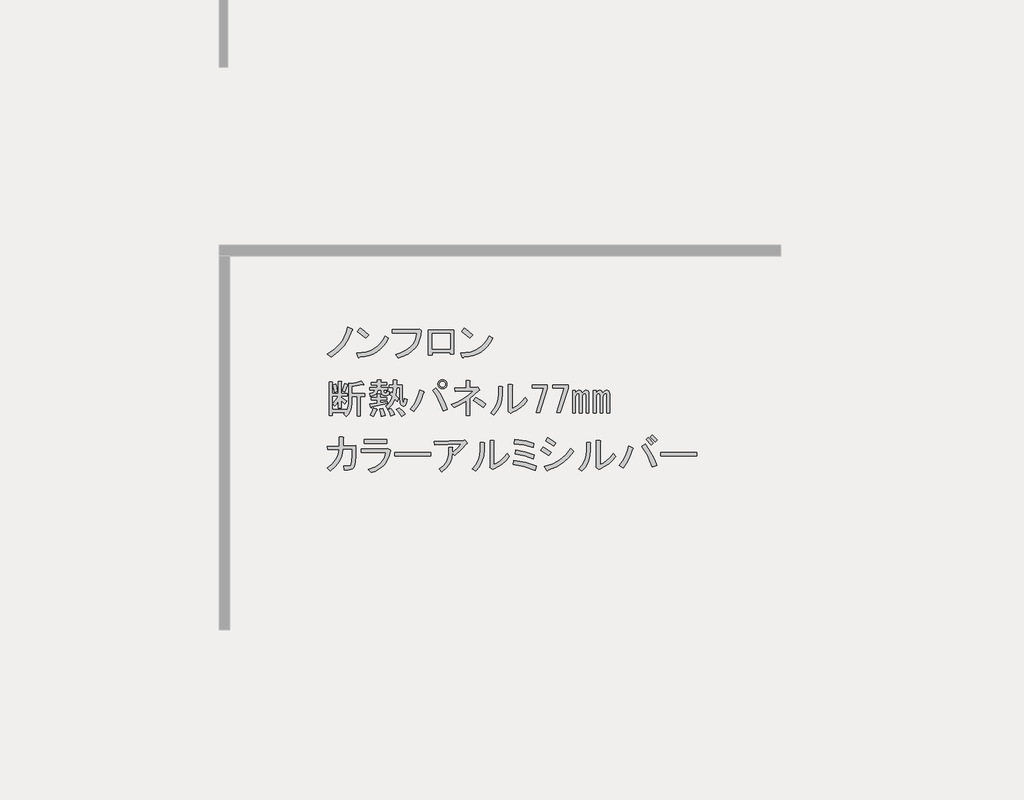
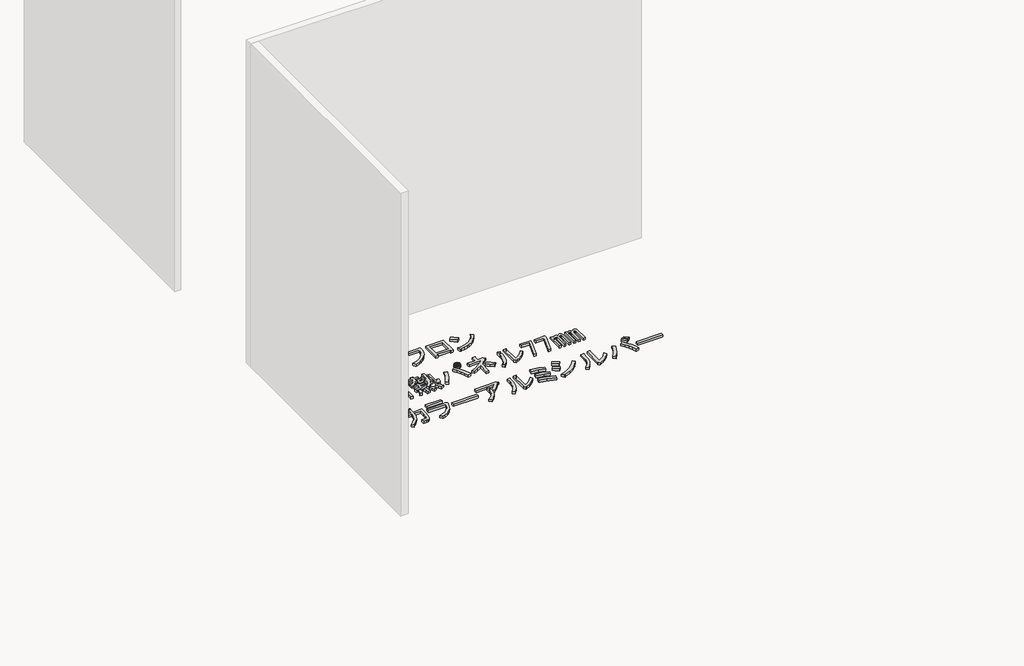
# One storey, part 41 of 117: 1 proxy.
"""IFC4 building model written with IfcOpenShell, lengths in millimetres."""

from ifc_helpers import new_model, si_unit, frame, origin, place, context, project, spatial, polyline, outline, extrude, element, save

model = new_model("IFC4")

# Units and contexts
model_context = context("Model", 3, world=origin())
ifc_project = project(units=[si_unit("LENGTHUNIT", "METRE", prefix="MILLI")], contexts=[model_context])

# Site, building, storey
site = spatial("IfcSite", under=ifc_project)
building = spatial("IfcBuilding", under=site)
storey = spatial("IfcBuildingStorey", under=building, Name="レベル 1", Elevation=500.0)

# Proxy
placement = place(None, origin())
element("IfcBuildingElementProxy", 1, Name="200㎜\u3000MS Pゴシック", ObjectType="200㎜\u3000MS Pゴシック", at=placement, inside=storey, context=model_context, shape_type="SweptSolid", body=[
    extrude(outline(polyline([(943.6706985, -607.0496882), (918.0952502, -666.8215225), (889.646156, -712.7998566), (847.9782907, -758.2034615), (798.8389462, -795.560858), (771.2519457, -773.7211493), (818.9544673, -743.2605029), (858.6107805, -704.7536481), (875.9963381, -680.8305462), (891.3703435, -652.7406577), (904.7327969, -620.4839827), (916.0836981, -584.0605212), (947.1190736, -597.8540214), (950.2800841, -602.4518548), (943.6706985, -607.0496882)])), frame((0.0, 0.0, 500.0), z_axis=(0.0, 0.0, 1.0), x_axis=(1.0, 0.0, 0.0)), (0.0, 0.0, 1.0), 25.0),
    extrude(outline(polyline([(1043.3977052, -662.2236891), (984.7753292, -615.0958967), (1004.3161212, -590.9572713), (1031.6157571, -610.7854279), (1065.2374138, -640.3839804), (1043.3977052, -662.2236891)])), frame((0.0, 0.0, 500.0), z_axis=(0.0, 0.0, 1.0), x_axis=(1.0, 0.0, 0.0)), (0.0, 0.0, 1.0), 25.0),
    extrude(outline(polyline([(1205.4713328, -662.2236891), (1188.947869, -691.965924), (1169.8381239, -717.9724192), (1148.1420975, -740.2431748), (1123.8597898, -758.7781907), (1096.9912008, -773.577467), (1067.5363306, -784.6410036), (1035.495179, -791.9688006), (1000.8677461, -795.560858), (995.1204544, -803.6070664), (989.3731626, -797.8597747), (980.1774958, -767.9738575), (1016.0082679, -765.2977748), (1048.7857912, -758.9937141), (1078.5100658, -749.0616756), (1105.1810916, -735.5016591), (1128.7988687, -718.3136646), (1149.363397, -697.4976923), (1166.8746766, -673.053742), (1181.3327074, -644.9818138), (1205.4713328, -662.2236891)])), frame((0.0, 0.0, 500.0), z_axis=(0.0, 0.0, 1.0), x_axis=(1.0, 0.0, 0.0)), (0.0, 0.0, 1.0), 25.0),
    extrude(outline(polyline([(1256.2314136, -777.1695243), (1290.014713, -767.4889298), (1319.5234641, -755.1142922), (1344.757667, -740.0456116), (1365.7173217, -722.282888), (1382.402428, -701.8261214), (1394.8129862, -678.6753118), (1402.9489961, -652.8304591), (1406.8104577, -624.2915635), (1234.3917049, -624.2915635), (1234.3917049, -599.0034798), (1409.1093744, -599.0034798), (1425.2017914, -595.5551047), (1437.8458332, -607.0496882), (1434.325617, -643.5449909), (1426.0638851, -676.5919185), (1413.0606375, -706.1904711), (1395.3158742, -732.3406486), (1372.8295952, -755.042451), (1345.6018005, -774.2958784), (1313.6324901, -790.1009308), (1276.921664, -802.4576081), (1256.2314136, -777.1695243)])), frame((0.0, 0.0, 500.0), z_axis=(0.0, 0.0, 1.0), x_axis=(1.0, 0.0, 0.0)), (0.0, 0.0, 1.0), 25.0),
    extrude(outline(polyline([(1670.955987, -776.020066), (1644.5184449, -776.020066), (1644.5184449, -763.3760241), (1516.9285679, -763.3760241), (1516.9285679, -781.7673577), (1490.4910258, -781.7673577), (1490.4910258, -602.4518548), (1670.955987, -602.4518548), (1670.955987, -776.020066)]), holes=[polyline([(1516.9285679, -627.7399386), (1516.9285679, -738.0879404), (1644.5184449, -738.0879404), (1644.5184449, -627.7399386), (1516.9285679, -627.7399386)])]), frame((0.0, 0.0, 500.0), z_axis=(0.0, 0.0, 1.0), x_axis=(1.0, 0.0, 0.0)), (0.0, 0.0, 1.0), 25.0),
    extrude(outline(polyline([(1947.0099049, -662.2236891), (1930.4864411, -691.965924), (1911.376696, -717.9724192), (1889.6806696, -740.2431748), (1865.3983619, -758.7781907), (1838.5297729, -773.577467), (1809.0749026, -784.6410036), (1777.0337511, -791.9688006), (1742.4063182, -795.560858), (1736.6590264, -803.6070664), (1730.9117347, -797.8597747), (1721.7160679, -767.9738575), (1757.5468399, -765.2977748), (1790.3243633, -758.9937141), (1820.0486378, -749.0616756), (1846.7196637, -735.5016591), (1870.3374407, -718.3136646), (1890.9019691, -697.4976923), (1908.4132486, -673.053742), (1922.8712795, -644.9818138), (1947.0099049, -662.2236891)])), frame((0.0, 0.0, 500.0), z_axis=(0.0, 0.0, 1.0), x_axis=(1.0, 0.0, 0.0)), (0.0, 0.0, 1.0), 25.0),
    extrude(outline(polyline([(1784.9362772, -662.2236891), (1726.3139013, -615.0958967), (1745.8546933, -590.9572713), (1773.1543291, -610.7854279), (1806.7759859, -640.3839804), (1784.9362772, -662.2236891)])), frame((0.0, 0.0, 500.0), z_axis=(0.0, 0.0, 1.0), x_axis=(1.0, 0.0, 0.0)), (0.0, 0.0, 1.0), 25.0),
    extrude(outline(polyline([(877.0021141, -1039.2345221), (894.2439894, -986.3594379), (914.9342397, -992.1067296), (916.6584273, -995.2677401), (912.635323, -997.8540214), (895.3934477, -1046.1312722), (877.0021141, -1039.2345221)])), frame((0.0, 0.0, 500.0), z_axis=(0.0, 0.0, 1.0), x_axis=(1.0, 0.0, 0.0)), (0.0, 0.0, 1.0), 25.0),
    extrude(outline(polyline([(1031.0295333, -990.9572713), (1029.3053458, -995.5551047), (1021.8338665, -993.256188), (944.8201569, -1005.9002299), (944.8201569, -1055.326939), (1036.7768251, -1055.326939), (1036.7768251, -1077.1666477), (1005.7414495, -1077.1666477), (1005.7414495, -1217.4005666), (982.7522825, -1217.4005666), (982.7522825, -1077.1666477), (944.8201569, -1077.1666477), (944.8201569, -1126.5933568), (942.2338756, -1154.3958807), (934.4750317, -1179.1810764), (921.5436253, -1200.948944), (903.4396562, -1219.6994833), (886.1977809, -1200.1586914), (896.5429061, -1190.9630245), (806.8851546, -1190.9630245), (806.8851546, -1212.8027332), (783.8959876, -1212.8027332), (783.8959876, -973.715396), (805.7356963, -973.715396), (810.6208943, -976.0143127), (806.8851546, -980.6121461), (806.8851546, -1056.4763974), (849.4151137, -1056.4763974), (849.4151137, -969.1175626), (867.8064473, -969.1175626), (872.6916453, -971.4164793), (868.9559057, -976.0143127), (868.9559057, -1056.4763974), (912.635323, -1056.4763974), (912.635323, -1074.867731), (868.9559057, -1074.867731), (868.9559057, -1084.0633978), (909.186948, -1110.5009399), (895.3934477, -1132.3406486), (868.9559057, -1105.9031065), (868.9559057, -1158.7781907), (849.4151137, -1158.7781907), (849.4151137, -1110.5009399), (836.1963426, -1130.3290965), (821.8281132, -1146.1341488), (809.1840713, -1127.7428152), (831.02378, -1103.6041898), (848.2656553, -1074.867731), (806.8851546, -1074.867731), (806.8851546, -1169.1233159), (904.5891146, -1169.1233159), (904.5891146, -1182.9168161), (917.520521, -1158.7781907), (921.8309898, -1125.4438985), (921.8309898, -980.6121461), (943.6706985, -986.3594379), (979.8786366, -978.8879586), (1010.339283, -965.6691875), (1031.0295333, -990.9572713)])), frame((0.0, 0.0, 500.0), z_axis=(0.0, 0.0, 1.0), x_axis=(1.0, 0.0, 0.0)), (0.0, 0.0, 1.0), 25.0),
    extrude(outline(polyline([(822.9775716, -1047.2807305), (810.3335297, -996.7045631), (829.8743217, -989.8078129), (837.6331656, -1013.9464383), (842.5183636, -1040.3839804), (822.9775716, -1047.2807305)])), frame((0.0, 0.0, 500.0), z_axis=(0.0, 0.0, 1.0), x_axis=(1.0, 0.0, 0.0)), (0.0, 0.0, 1.0), 25.0),
    extrude(outline(polyline([(1121.8367431, -1167.9738575), (1125.2851182, -1172.8590555), (1119.5378264, -1176.020066), (1109.7674304, -1201.5955143), (1098.8475761, -1220.8489417), (1075.858409, -1209.3543582), (1088.5024509, -1185.790462), (1098.8475761, -1158.7781907), (1121.8367431, -1167.9738575)])), frame((0.0, 0.0, 500.0), z_axis=(0.0, 0.0, 1.0), x_axis=(1.0, 0.0, 0.0)), (0.0, 0.0, 1.0), 25.0),
    extrude(outline(polyline([(1166.6656188, -1163.3760241), (1176.7233794, -1190.67566), (1181.6085774, -1212.8027332), (1152.8721186, -1218.550025), (1150.2858373, -1196.9976809), (1142.5269934, -1166.8243992), (1166.6656188, -1163.3760241)])), frame((0.0, 0.0, 500.0), z_axis=(0.0, 0.0, 1.0), x_axis=(1.0, 0.0, 0.0)), (0.0, 0.0, 1.0), 25.0),
    extrude(outline(polyline([(1281.611454, -1157.6287323), (1306.3248086, -1178.8937119), (1325.2908714, -1203.6070664), (1298.8533293, -1218.550025), (1279.5999019, -1188.9514724), (1260.9212037, -1169.1233159), (1281.611454, -1157.6287323)])), frame((0.0, 0.0, 500.0), z_axis=(0.0, 0.0, 1.0), x_axis=(1.0, 0.0, 0.0)), (0.0, 0.0, 1.0), 25.0),
    extrude(outline(polyline([(1222.9890781, -1216.2511083), (1214.655505, -1191.5377537), (1201.1493694, -1170.2727742), (1221.8396197, -1162.2265657), (1238.7941304, -1183.7789098), (1250.5760785, -1207.0554415), (1222.9890781, -1216.2511083)])), frame((0.0, 0.0, 500.0), z_axis=(0.0, 0.0, 1.0), x_axis=(1.0, 0.0, 0.0)), (0.0, 0.0, 1.0), 25.0),
    extrude(outline(polyline([(1083.9046175, -1153.0308989), (1081.8930654, -1157.9160969), (1078.1573257, -1156.479274), (1072.410034, -1132.3406486), (1127.5840349, -1124.2944401), (1127.5840349, -1101.3052731), (1083.9046175, -1101.3052731), (1083.9046175, -1082.9139395), (1127.5840349, -1082.9139395), (1127.5840349, -1059.9247724), (1145.9753685, -1059.9247724), (1150.8605665, -1062.2236891), (1147.1248268, -1066.8215225), (1147.1248268, -1082.9139395), (1191.9537026, -1082.9139395), (1191.9537026, -1101.3052731), (1147.1248268, -1101.3052731), (1147.1248268, -1120.8460651), (1197.7009943, -1111.6503983), (1197.7009943, -1127.7428152), (1083.9046175, -1153.0308989)])), frame((0.0, 0.0, 500.0), z_axis=(0.0, 0.0, 1.0), x_axis=(1.0, 0.0, 0.0)), (0.0, 0.0, 1.0), 25.0),
    extrude(outline(polyline([(1154.021577, -1031.1883136), (1128.7334932, -1031.1883136), (1124.1356598, -1048.6457123), (1113.7905346, -1061.9363245), (1097.6981177, -1071.0601502), (1075.858409, -1076.0171893), (1071.2605756, -1056.4763974), (1096.5486594, -1047.8554597), (1104.0201386, -1040.5276627), (1108.0432429, -1031.1883136), (1072.410034, -1031.1883136), (1072.410034, -1012.79698), (1126.4345765, -1012.79698), (1126.4345765, -995.5551047), (1082.7551591, -995.5551047), (1082.7551591, -977.1637711), (1126.4345765, -977.1637711), (1126.4345765, -958.7724374), (1148.2742852, -958.7724374), (1153.1594832, -961.0713541), (1149.4237436, -965.6691875), (1149.4237436, -977.1637711), (1191.9537026, -977.1637711), (1191.9537026, -995.5551047), (1149.4237436, -995.5551047), (1149.4237436, -1012.79698), (1202.2988277, -1012.79698), (1202.2988277, -1031.1883136), (1173.5623689, -1031.1883136), (1173.5623689, -1043.8323555), (1174.9991919, -1049.0049181), (1179.3096607, -1050.7291056), (1189.6547859, -1050.7291056), (1193.3905255, -1047.5680951), (1193.1031609, -1038.0850637), (1212.6439529, -1040.3839804), (1209.770307, -1061.9363245), (1204.4540622, -1067.3244106), (1196.551536, -1069.1204392), (1172.4129106, -1069.1204392), (1158.6194104, -1064.2352412), (1154.021577, -1049.5796472), (1154.021577, -1031.1883136)])), frame((0.0, 0.0, 500.0), z_axis=(0.0, 0.0, 1.0), x_axis=(1.0, 0.0, 0.0)), (0.0, 0.0, 1.0), 25.0),
    extrude(outline(polyline([(1285.0598291, -1013.9464383), (1263.2201204, -1013.9464383), (1258.622287, -1071.4193559), (1278.163079, -1089.8106896), (1267.8179538, -1111.6503983), (1251.7255369, -1095.5579813), (1232.4721095, -1133.2027424), (1202.2988277, -1165.6749408), (1185.0569525, -1144.9846905), (1200.1435933, -1133.0590601), (1213.2186821, -1117.9724192), (1224.2822187, -1099.7247679), (1233.3342033, -1078.316106), (1216.092328, -1063.3731475), (1224.1385364, -1046.1312722), (1237.9320367, -1056.4763974), (1240.2309534, -1013.9464383), (1212.6439529, -1013.9464383), (1212.6439529, -995.5551047), (1240.2309534, -995.5551047), (1240.2309534, -961.0713541), (1262.0706621, -961.0713541), (1266.95586, -963.3702708), (1263.2201204, -967.9681043), (1263.2201204, -995.5551047), (1304.6006211, -995.5551047), (1304.6006211, -1092.1096063), (1308.0489961, -1116.2482317), (1311.2818477, -1118.2597838), (1314.0836525, -1115.0987733), (1318.3941213, -1093.2590646), (1337.9349133, -1100.1558147), (1333.408921, -1126.9525626), (1325.578236, -1142.9731384), (1314.4428582, -1148.2175421), (1300.0027877, -1142.6857738), (1293.4652433, -1135.3579768), (1288.7955687, -1123.719711), (1285.0598291, -1087.5117729), (1285.0598291, -1013.9464383)])), frame((0.0, 0.0, 500.0), z_axis=(0.0, 0.0, 1.0), x_axis=(1.0, 0.0, 0.0)), (0.0, 0.0, 1.0), 25.0),
    extrude(outline(polyline([(1543.6879583, -1016.245355), (1570.3410238, -1052.9561812), (1592.8273029, -1090.6727833), (1611.1467953, -1129.3951616), (1625.2995013, -1169.1233159), (1594.2641258, -1179.468441), (1578.8182792, -1136.3637528), (1561.2171982, -1097.856898), (1541.4608827, -1063.9478766), (1519.5493329, -1034.6366887), (1543.6879583, -1016.245355)])), frame((0.0, 0.0, 500.0), z_axis=(0.0, 0.0, 1.0), x_axis=(1.0, 0.0, 0.0)), (0.0, 0.0, 1.0), 25.0),
    extrude(outline(polyline([(1456.3291235, -1042.6828971), (1460.3522278, -1048.1428243), (1454.0302068, -1053.0280223), (1442.1045764, -1088.4457078), (1427.0179356, -1122.282888), (1408.7702842, -1154.539563), (1387.3616224, -1185.2157328), (1360.9240803, -1167.9738575), (1384.1287708, -1136.5074351), (1403.1666748, -1103.0294606), (1418.0377922, -1067.539934), (1428.7421231, -1030.0388553), (1456.3291235, -1042.6828971)])), frame((0.0, 0.0, 500.0), z_axis=(0.0, 0.0, 1.0), x_axis=(1.0, 0.0, 0.0)), (0.0, 0.0, 1.0), 25.0),
    extrude(outline(polyline([(1589.6662924, -1021.9926468), (1577.0222505, -1019.6937301), (1566.6771253, -1012.79698), (1559.7803752, -1002.4518548), (1557.4814585, -989.8078129), (1559.7803752, -977.1637711), (1566.6771253, -966.8186459), (1577.0222505, -959.9218958), (1589.6662924, -957.6229791), (1602.3103343, -959.9218958), (1612.6554594, -966.8186459), (1619.5522095, -977.1637711), (1621.8511262, -989.8078129), (1619.5522095, -1002.4518548), (1612.6554594, -1012.79698), (1602.3103343, -1019.6937301), (1589.6662924, -1021.9926468)]), holes=[polyline([(1589.6662924, -1010.4980633), (1597.9998654, -1009.0612403), (1604.609251, -1004.7507715), (1608.9197198, -998.141386), (1610.3565427, -989.8078129), (1608.9197198, -981.4742399), (1604.609251, -974.8648544), (1597.9998654, -970.5543855), (1589.6662924, -969.1175626), (1581.3327193, -970.5543855), (1574.7233338, -974.8648544), (1570.412865, -981.4742399), (1568.976042, -989.8078129), (1570.412865, -998.141386), (1574.7233338, -1004.7507715), (1581.3327193, -1009.0612403), (1589.6662924, -1010.4980633)])]), frame((0.0, 0.0, 500.0), z_axis=(0.0, 0.0, 1.0), x_axis=(1.0, 0.0, 0.0)), (0.0, 0.0, 1.0), 25.0),
    extrude(outline(polyline([(1879.3297971, -1155.3298156), (1842.2597652, -1126.0186277), (1809.2128376, -1104.7536481), (1826.4547129, -1082.9139395), (1865.2489323, -1106.1904711), (1898.8705891, -1132.3406486), (1879.3297971, -1155.3298156)])), frame((0.0, 0.0, 500.0), z_axis=(0.0, 0.0, 1.0), x_axis=(1.0, 0.0, 0.0)), (0.0, 0.0, 1.0), 25.0),
    extrude(outline(polyline([(1833.351463, -1011.6475216), (1840.2482131, -1009.3486049), (1852.892255, -1026.5904802), (1854.0417134, -1032.6251366), (1848.2944216, -1034.6366887), (1785.0742122, -1090.9601479), (1785.0742122, -1211.6532749), (1758.6366701, -1211.6532749), (1758.6366701, -1109.3514816), (1718.4056278, -1133.4901069), (1673.5767521, -1155.3298156), (1654.0359601, -1134.6395653), (1699.5832473, -1115.1706145), (1740.8200657, -1092.3969709), (1777.7464152, -1066.3186345), (1810.362296, -1036.9356054), (1680.4735022, -1042.6828971), (1677.0251271, -1017.3948134), (1758.6366701, -1015.0958967), (1758.6366701, -963.3702708), (1781.6258372, -963.3702708), (1787.6604935, -966.8186459), (1785.0742122, -972.5659377), (1785.0742122, -1013.9464383), (1833.351463, -1011.6475216)])), frame((0.0, 0.0, 500.0), z_axis=(0.0, 0.0, 1.0), x_axis=(1.0, 0.0, 0.0)), (0.0, 0.0, 1.0), 25.0),
    extrude(outline(polyline([(1932.296838, -1193.2619413), (1957.4412394, -1164.0225944), (1975.4015262, -1131.4785548), (1986.1776982, -1095.6298225), (1989.7697556, -1056.4763974), (1989.7697556, -1004.7507715), (2013.908381, -1004.7507715), (2019.6556727, -1008.1991466), (2016.2072977, -1013.9464383), (2016.2072977, -1055.326939), (2012.3997169, -1101.0897496), (2000.9769745, -1141.82368), (1981.9390705, -1177.5287301), (1955.286005, -1208.2048998), (1932.296838, -1193.2619413)])), frame((0.0, 0.0, 500.0), z_axis=(0.0, 0.0, 1.0), x_axis=(1.0, 0.0, 0.0)), (0.0, 0.0, 1.0), 25.0),
    extrude(outline(polyline([(2086.3242571, -1162.2265657), (2111.1094529, -1150.0135708), (2134.8888725, -1132.9153778), (2157.6625161, -1110.9319868), (2179.4303837, -1084.0633978), (2195.5228006, -1105.9031065), (2172.246269, -1133.7056304), (2146.0960914, -1157.3413678), (2117.0722681, -1176.8103186), (2085.1747988, -1192.1124829), (2075.979132, -1196.7103163), (2057.5877983, -1182.9168161), (2059.886715, -1177.1695243), (2059.886715, -992.1067296), (2084.0253404, -992.1067296), (2089.7726322, -995.5551047), (2086.3242571, -1001.3023965), (2086.3242571, -1162.2265657)])), frame((0.0, 0.0, 500.0), z_axis=(0.0, 0.0, 1.0), x_axis=(1.0, 0.0, 0.0)), (0.0, 0.0, 1.0), 25.0),
    extrude(outline(polyline([(2227.7076344, -995.5551047), (2336.9061779, -995.5551047), (2336.9061779, -1020.8431884), (2281.732177, -1192.1124829), (2256.4440932, -1192.1124829), (2311.6180941, -1017.3948134), (2227.7076344, -1017.3948134), (2227.7076344, -995.5551047)])), frame((0.0, 0.0, 500.0), z_axis=(0.0, 0.0, 1.0), x_axis=(1.0, 0.0, 0.0)), (0.0, 0.0, 1.0), 25.0),
    extrude(outline(polyline([(2374.8383035, -995.5551047), (2484.0368469, -995.5551047), (2484.0368469, -1020.8431884), (2428.862846, -1192.1124829), (2403.5747623, -1192.1124829), (2458.7487632, -1017.3948134), (2374.8383035, -1017.3948134), (2374.8383035, -995.5551047)])), frame((0.0, 0.0, 500.0), z_axis=(0.0, 0.0, 1.0), x_axis=(1.0, 0.0, 0.0)), (0.0, 0.0, 1.0), 25.0),
    extrude(outline(polyline([(2758.7573931, -1032.337772), (2767.0909661, -1033.7745949), (2773.7003517, -1038.0850637), (2778.8729142, -1046.7060014), (2780.5971018, -1058.7753141), (2780.5971018, -1193.2619413), (2761.0563098, -1193.2619413), (2761.0563098, -1069.1204392), (2758.4700285, -1059.6374078), (2750.7111846, -1056.4763974), (2740.3660594, -1061.0742308), (2734.3314031, -1069.6951684), (2732.319851, -1079.4655644), (2732.319851, -1193.2619413), (2712.779059, -1193.2619413), (2712.779059, -1069.1204392), (2710.1927777, -1059.6374078), (2702.4339338, -1056.4763974), (2692.0888087, -1061.0742308), (2686.0541523, -1069.6951684), (2684.0426002, -1079.4655644), (2684.0426002, -1193.2619413), (2664.5018082, -1193.2619413), (2664.5018082, -1035.786147), (2684.0426002, -1035.786147), (2684.0426002, -1053.0280223), (2696.1119129, -1037.5103346), (2709.3306839, -1032.337772), (2718.5263508, -1033.7745949), (2725.4231009, -1038.0850637), (2732.319851, -1051.878564), (2745.2512574, -1037.22297), (2758.7573931, -1032.337772)])), frame((0.0, 0.0, 500.0), z_axis=(0.0, 0.0, 1.0), x_axis=(1.0, 0.0, 0.0)), (0.0, 0.0, 1.0), 25.0),
    extrude(outline(polyline([(2536.9119311, -1193.2619413), (2517.3711392, -1193.2619413), (2517.3711392, -1035.786147), (2536.9119311, -1035.786147), (2536.9119311, -1053.0280223), (2548.9812438, -1037.5103346), (2562.2000149, -1032.337772), (2571.3956817, -1033.7745949), (2578.2924318, -1038.0850637), (2585.1891819, -1051.878564), (2598.1205884, -1037.22297), (2611.626724, -1032.337772), (2619.9602971, -1033.7745949), (2626.5696826, -1038.0850637), (2631.7422452, -1046.7060014), (2633.4664327, -1058.7753141), (2633.4664327, -1193.2619413), (2613.9256407, -1193.2619413), (2613.9256407, -1069.1204392), (2611.3393594, -1059.6374078), (2603.5805156, -1056.4763974), (2593.2353904, -1061.0742308), (2587.200734, -1069.6951684), (2585.1891819, -1079.4655644), (2585.1891819, -1193.2619413), (2565.6483899, -1193.2619413), (2565.6483899, -1069.1204392), (2563.0621086, -1059.6374078), (2555.3032648, -1056.4763974), (2544.9581396, -1061.0742308), (2538.9234833, -1069.6951684), (2536.9119311, -1079.4655644), (2536.9119311, -1193.2619413)])), frame((0.0, 0.0, 500.0), z_axis=(0.0, 0.0, 1.0), x_axis=(1.0, 0.0, 0.0)), (0.0, 0.0, 1.0), 25.0),
    extrude(outline(polyline([(947.1190736, -1450.7291056), (881.5999475, -1453.0280223), (873.3382156, -1499.293721), (855.44977, -1540.3868571), (827.9346107, -1576.3074306), (790.7927377, -1607.0554415), (771.2519457, -1587.5146495), (806.2385843, -1559.2810787), (831.8858738, -1527.4554506), (848.1938142, -1492.0377651), (855.1624054, -1453.0280223), (773.5508624, -1455.326939), (771.2519457, -1432.337772), (856.3118638, -1430.0388553), (856.3118638, -1365.6691875), (880.4504892, -1365.6691875), (887.3472393, -1369.1175626), (882.7494059, -1374.8648544), (882.7494059, -1430.0388553), (973.5566157, -1426.5904802), (973.5566157, -1497.856898), (970.9703344, -1545.8467842), (963.2114905, -1577.1695243), (956.602105, -1587.2272849), (947.1190736, -1594.4113996), (934.7623963, -1598.7218684), (919.5320731, -1600.1586914), (891.9450727, -1600.1586914), (888.4966976, -1571.4222326), (918.3826148, -1573.7211493), (932.4634796, -1570.8475034), (940.2223235, -1562.2265657), (945.3948861, -1536.938482), (947.1190736, -1497.856898), (947.1190736, -1450.7291056)])), frame((0.0, 0.0, 500.0), z_axis=(0.0, 0.0, 1.0), x_axis=(1.0, 0.0, 0.0)), (0.0, 0.0, 1.0), 25.0),
    extrude(outline(polyline([(1191.8617459, -1410.4980633), (1033.2364933, -1410.4980633), (1033.2364933, -1385.2099795), (1191.8617459, -1385.2099795), (1191.8617459, -1410.4980633)])), frame((0.0, 0.0, 500.0), z_axis=(0.0, 0.0, 1.0), x_axis=(1.0, 0.0, 0.0)), (0.0, 0.0, 1.0), 25.0),
    extrude(outline(polyline([(1061.9729521, -1596.7103163), (1111.6151847, -1578.3908238), (1131.8564279, -1566.2676303), (1149.0444223, -1552.1688052), (1163.179168, -1536.0943485), (1174.2606649, -1518.0442603), (1182.2889131, -1498.0185406), (1187.2639125, -1476.0171893), (1012.546243, -1476.0171893), (1012.546243, -1450.7291056), (1188.4133709, -1450.7291056), (1198.758496, -1447.2807305), (1219.4487464, -1459.9247724), (1222.3223922, -1465.3846996), (1217.1498297, -1470.2698976), (1211.0253719, -1497.7491363), (1201.8476653, -1522.7139349), (1189.6167101, -1545.1642933), (1174.332506, -1565.1002116), (1155.9950533, -1582.5216898), (1134.6043517, -1597.4287278), (1110.1604015, -1609.8213256), (1082.6632025, -1619.6994833), (1061.9729521, -1596.7103163)])), frame((0.0, 0.0, 500.0), z_axis=(0.0, 0.0, 1.0), x_axis=(1.0, 0.0, 0.0)), (0.0, 0.0, 1.0), 25.0),
    extrude(outline(polyline([(1250.8979269, -1501.3052731), (1250.8979269, -1476.0171893), (1507.2271394, -1476.0171893), (1507.2271394, -1501.3052731), (1250.8979269, -1501.3052731)])), frame((0.0, 0.0, 500.0), z_axis=(0.0, 0.0, 1.0), x_axis=(1.0, 0.0, 0.0)), (0.0, 0.0, 1.0), 25.0),
    extrude(outline(polyline([(1659.8292302, -1478.316106), (1656.0216494, -1519.5529244), (1642.2999903, -1555.9045448), (1618.664253, -1587.3709672), (1585.1144373, -1613.9521916), (1565.5736453, -1592.1124829), (1595.244039, -1571.8532794), (1616.4371774, -1547.8583363), (1629.1530604, -1520.1276536), (1633.3916881, -1488.6612312), (1633.3916881, -1439.2345221), (1657.5303135, -1439.2345221), (1663.2776052, -1441.8208034), (1659.8292302, -1447.2807305), (1659.8292302, -1477.1666477), (1696.3245329, -1446.4186368), (1723.0494396, -1416.245355), (1535.6877282, -1423.1421052), (1533.3888115, -1396.7045631), (1742.5902315, -1390.9572713), (1750.63644, -1388.6583546), (1767.8783153, -1409.3486049), (1768.1656799, -1412.5096154), (1762.1310235, -1412.79698), (1724.1988979, -1456.1890328), (1679.3700222, -1496.7074397), (1659.8292302, -1478.316106)])), frame((0.0, 0.0, 500.0), z_axis=(0.0, 0.0, 1.0), x_axis=(1.0, 0.0, 0.0)), (0.0, 0.0, 1.0), 25.0),
    extrude(outline(polyline([(1802.8218492, -1593.2619413), (1827.9662506, -1564.0225944), (1845.9265374, -1531.4785548), (1856.7027094, -1495.6298225), (1860.2947668, -1456.4763974), (1860.2947668, -1404.7507715), (1884.4333922, -1404.7507715), (1890.1806839, -1408.1991466), (1886.7323089, -1413.9464383), (1886.7323089, -1455.326939), (1882.9247281, -1501.0897496), (1871.5019857, -1541.82368), (1852.4640818, -1577.5287301), (1825.8110162, -1608.2048998), (1802.8218492, -1593.2619413)])), frame((0.0, 0.0, 500.0), z_axis=(0.0, 0.0, 1.0), x_axis=(1.0, 0.0, 0.0)), (0.0, 0.0, 1.0), 25.0),
    extrude(outline(polyline([(1956.8492684, -1562.2265657), (1981.6344641, -1550.0135708), (2005.4138837, -1532.9153778), (2028.1875273, -1510.9319868), (2049.9553949, -1484.0633978), (2066.0478118, -1505.9031065), (2042.7712802, -1533.7056304), (2016.6211027, -1557.3413678), (1987.5972793, -1576.8103186), (1955.69981, -1592.1124829), (1946.5041432, -1596.7103163), (1928.1128096, -1582.9168161), (1930.4117263, -1577.1695243), (1930.4117263, -1392.1067296), (1954.5503517, -1392.1067296), (1960.2976434, -1395.5551047), (1956.8492684, -1401.3023965), (1956.8492684, -1562.2265657)])), frame((0.0, 0.0, 500.0), z_axis=(0.0, 0.0, 1.0), x_axis=(1.0, 0.0, 0.0)), (0.0, 0.0, 1.0), 25.0),
    extrude(outline(polyline([(2237.3171063, -1520.8460651), (2180.7062824, -1502.1673669), (2107.4283125, -1487.5117729), (2110.8766875, -1459.9247724), (2180.1315532, -1471.9940851), (2245.3633147, -1492.1096063), (2237.3171063, -1520.8460651)])), frame((0.0, 0.0, 500.0), z_axis=(0.0, 0.0, 1.0), x_axis=(1.0, 0.0, 0.0)), (0.0, 0.0, 1.0), 25.0),
    extrude(outline(polyline([(2251.1106065, -1604.7565248), (2167.4875114, -1577.4568889), (2093.6348123, -1562.2265657), (2099.382104, -1532.3406486), (2184.1546575, -1549.0077947), (2259.1568149, -1573.7211493), (2251.1106065, -1604.7565248)])), frame((0.0, 0.0, 500.0), z_axis=(0.0, 0.0, 1.0), x_axis=(1.0, 0.0, 0.0)), (0.0, 0.0, 1.0), 25.0),
    extrude(outline(polyline([(2106.2788541, -1384.0605212), (2187.3156679, -1395.8424693), (2241.9149397, -1410.4980633), (2235.0181896, -1440.3839804), (2173.2348031, -1423.4294697), (2102.8304791, -1413.9464383), (2106.2788541, -1384.0605212)])), frame((0.0, 0.0, 500.0), z_axis=(0.0, 0.0, 1.0), x_axis=(1.0, 0.0, 0.0)), (0.0, 0.0, 1.0), 25.0),
    extrude(outline(polyline([(2339.0671596, -1370.267021), (2397.6895355, -1407.0496882), (2381.5971186, -1431.1883136), (2324.124201, -1394.4056463), (2339.0671596, -1370.267021)])), frame((0.0, 0.0, 500.0), z_axis=(0.0, 0.0, 1.0), x_axis=(1.0, 0.0, 0.0)), (0.0, 0.0, 1.0), 25.0),
    extrude(outline(polyline([(2314.9285342, -1577.1695243), (2373.6945924, -1558.7063495), (2424.7018068, -1530.9038257), (2467.9501773, -1493.7619527), (2503.4397039, -1447.2807305), (2524.1299543, -1467.9709809), (2490.7956621, -1511.6503983), (2449.4151614, -1548.4330655), (2399.9884522, -1578.3189827), (2342.5155346, -1601.3081497), (2337.9177012, -1608.4922644), (2331.0209511, -1602.4576081), (2314.9285342, -1577.1695243)])), frame((0.0, 0.0, 500.0), z_axis=(0.0, 0.0, 1.0), x_axis=(1.0, 0.0, 0.0)), (0.0, 0.0, 1.0), 25.0),
    extrude(outline(polyline([(2306.8823257, -1438.0850637), (2365.5047017, -1474.867731), (2347.113368, -1499.0063564), (2289.6404504, -1462.2236891), (2306.8823257, -1438.0850637)])), frame((0.0, 0.0, 500.0), z_axis=(0.0, 0.0, 1.0), x_axis=(1.0, 0.0, 0.0)), (0.0, 0.0, 1.0), 25.0),
    extrude(outline(polyline([(2559.0734882, -1593.2619413), (2584.2178896, -1564.0225944), (2602.1781764, -1531.4785548), (2612.9543484, -1495.6298225), (2616.5464058, -1456.4763974), (2616.5464058, -1404.7507715), (2640.6850312, -1404.7507715), (2646.4323229, -1408.1991466), (2642.9839479, -1413.9464383), (2642.9839479, -1455.326939), (2639.1763671, -1501.0897496), (2627.7536247, -1541.82368), (2608.7157207, -1577.5287301), (2582.0626552, -1608.2048998), (2559.0734882, -1593.2619413)])), frame((0.0, 0.0, 500.0), z_axis=(0.0, 0.0, 1.0), x_axis=(1.0, 0.0, 0.0)), (0.0, 0.0, 1.0), 25.0),
    extrude(outline(polyline([(2713.1009073, -1562.2265657), (2737.8861031, -1550.0135708), (2761.6655227, -1532.9153778), (2784.4391663, -1510.9319868), (2806.2070339, -1484.0633978), (2822.2994508, -1505.9031065), (2799.0229192, -1533.7056304), (2772.8727416, -1557.3413678), (2743.8489183, -1576.8103186), (2711.951449, -1592.1124829), (2702.7557822, -1596.7103163), (2684.3644485, -1582.9168161), (2686.6633652, -1577.1695243), (2686.6633652, -1392.1067296), (2710.8019906, -1392.1067296), (2716.5492824, -1395.5551047), (2713.1009073, -1401.3023965), (2713.1009073, -1562.2265657)])), frame((0.0, 0.0, 500.0), z_axis=(0.0, 0.0, 1.0), x_axis=(1.0, 0.0, 0.0)), (0.0, 0.0, 1.0), 25.0),
    extrude(outline(polyline([(3083.2264967, -1353.0251457), (3120.009164, -1388.6583546), (3105.0662054, -1402.4518548), (3068.2835381, -1365.6691875), (3083.2264967, -1353.0251457)])), frame((0.0, 0.0, 500.0), z_axis=(0.0, 0.0, 1.0), x_axis=(1.0, 0.0, 0.0)), (0.0, 0.0, 1.0), 25.0),
    extrude(outline(polyline([(3055.6394962, -1370.267021), (3092.4221635, -1409.3486049), (3075.1802882, -1421.9926468), (3039.5470793, -1382.9110628), (3055.6394962, -1370.267021)])), frame((0.0, 0.0, 500.0), z_axis=(0.0, 0.0, 1.0), x_axis=(1.0, 0.0, 0.0)), (0.0, 0.0, 1.0), 25.0),
    extrude(outline(polyline([(3032.6503292, -1416.245355), (3059.3033947, -1452.9561812), (3081.7896738, -1490.6727833), (3100.1091662, -1529.3951616), (3114.2618722, -1569.1233159), (3083.2264967, -1579.468441), (3067.7806501, -1536.3637528), (3050.1795691, -1497.856898), (3030.4232536, -1463.9478766), (3008.5117038, -1434.6366887), (3032.6503292, -1416.245355)])), frame((0.0, 0.0, 500.0), z_axis=(0.0, 0.0, 1.0), x_axis=(1.0, 0.0, 0.0)), (0.0, 0.0, 1.0), 25.0),
    extrude(outline(polyline([(2945.2914944, -1442.6828971), (2949.3145987, -1448.1428243), (2942.9925777, -1453.0280223), (2931.0669473, -1488.4457078), (2915.9803065, -1522.282888), (2897.7326551, -1554.539563), (2876.3239933, -1585.2157328), (2849.8864512, -1567.9738575), (2873.0911417, -1536.5074351), (2892.1290457, -1503.0294606), (2907.0001631, -1467.539934), (2917.704494, -1430.0388553), (2945.2914944, -1442.6828971)])), frame((0.0, 0.0, 500.0), z_axis=(0.0, 0.0, 1.0), x_axis=(1.0, 0.0, 0.0)), (0.0, 0.0, 1.0), 25.0),
    extrude(outline(polyline([(3142.998331, -1501.3052731), (3142.998331, -1476.0171893), (3399.3275435, -1476.0171893), (3399.3275435, -1501.3052731), (3142.998331, -1501.3052731)])), frame((0.0, 0.0, 500.0), z_axis=(0.0, 0.0, 1.0), x_axis=(1.0, 0.0, 0.0)), (0.0, 0.0, 1.0), 25.0),
])

save(model, "model.ifc")
